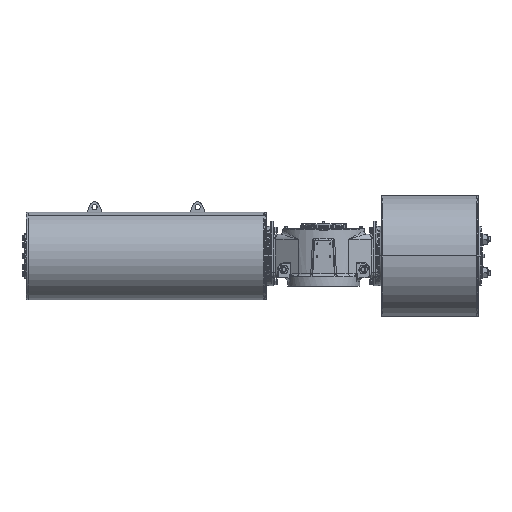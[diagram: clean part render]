
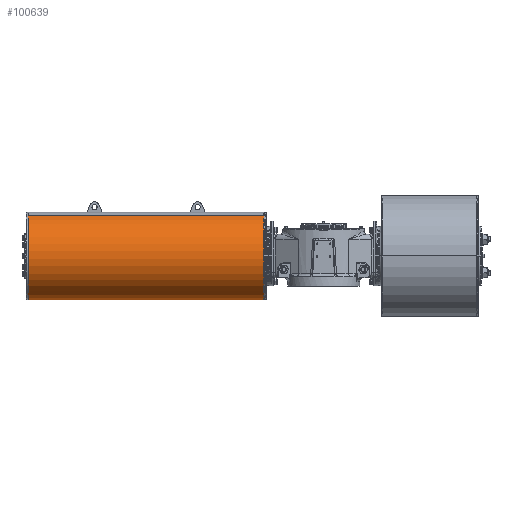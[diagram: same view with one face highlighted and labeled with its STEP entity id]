
A CAD part, front view. The second image highlights one B-rep face of the part: STEP entity #100639.
In plain terms, the highlighted cylindrical face has radius 340 mm (diameter 680 mm), a partial arc.
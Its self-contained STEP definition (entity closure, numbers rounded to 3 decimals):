
#12400 = DIRECTION ( 'NONE',  ( 1., 0., 0. ) ) ;
#12537 = CARTESIAN_POINT ( 'NONE',  ( -2293.385, 66.339, 479.326 ) ) ;
#16070 = CARTESIAN_POINT ( 'NONE',  ( -462.615, 339.661, -143.326 ) ) ;
#20241 = VECTOR ( 'NONE', #26007, 1000. ) ;
#20894 = VERTEX_POINT ( 'NONE', #92889 ) ;
#26007 = DIRECTION ( 'NONE',  ( 1., 0., 0. ) ) ;
#26647 = CARTESIAN_POINT ( 'NONE',  ( -462.615, 203., 168. ) ) ;
#30154 = DIRECTION ( 'NONE',  ( 1., 0., 0. ) ) ;
#33751 = ORIENTED_EDGE ( 'NONE', *, *, #91992, .T. ) ;
#34446 = AXIS2_PLACEMENT_3D ( 'NONE', #66784, #96291, #77077 ) ;
#36307 = LINE ( 'NONE', #105616, #20241 ) ;
#39816 = VERTEX_POINT ( 'NONE', #53948 ) ;
#48158 = EDGE_CURVE ( 'NONE', #81846, #20894, #126819, .T. ) ;
#48283 = VECTOR ( 'NONE', #12400, 1000. ) ;
#48898 = EDGE_CURVE ( 'NONE', #20894, #50636, #36307, .T. ) ;
#50636 = VERTEX_POINT ( 'NONE', #16070 ) ;
#50979 = AXIS2_PLACEMENT_3D ( 'NONE', #118113, #30154, #99496 ) ;
#52326 = AXIS2_PLACEMENT_3D ( 'NONE', #26647, #57518, #86411 ) ;
#53525 = LINE ( 'NONE', #71557, #48283 ) ;
#53948 = CARTESIAN_POINT ( 'NONE',  ( -462.615, 66.339, 479.326 ) ) ;
#57518 = DIRECTION ( 'NONE',  ( -1., 0., 0. ) ) ;
#58375 = EDGE_LOOP ( 'NONE', ( #92290, #104663, #74733, #33751 ) ) ;
#62616 = CIRCLE ( 'NONE', #52326, 340. ) ;
#66784 = CARTESIAN_POINT ( 'NONE',  ( -2298., 203., 168. ) ) ;
#71557 = CARTESIAN_POINT ( 'NONE',  ( -2298., 66.339, 479.326 ) ) ;
#72660 = EDGE_CURVE ( 'NONE', #81846, #39816, #53525, .T. ) ;
#74733 = ORIENTED_EDGE ( 'NONE', *, *, #48898, .T. ) ;
#77077 = DIRECTION ( 'NONE',  ( 0., 0.402, -0.916 ) ) ;
#81846 = VERTEX_POINT ( 'NONE', #12537 ) ;
#86411 = DIRECTION ( 'NONE',  ( 0., -0.402, 0.916 ) ) ;
#91992 = EDGE_CURVE ( 'NONE', #50636, #39816, #62616, .T. ) ;
#92290 = ORIENTED_EDGE ( 'NONE', *, *, #72660, .F. ) ;
#92889 = CARTESIAN_POINT ( 'NONE',  ( -2293.385, 339.661, -143.326 ) ) ;
#96291 = DIRECTION ( 'NONE',  ( 1., 0., 0. ) ) ;
#99496 = DIRECTION ( 'NONE',  ( 0., -0.402, 0.916 ) ) ;
#100639 = ADVANCED_FACE ( 'NONE', ( #125146 ), #115536, .T. ) ;
#104663 = ORIENTED_EDGE ( 'NONE', *, *, #48158, .T. ) ;
#105616 = CARTESIAN_POINT ( 'NONE',  ( -2298., 339.661, -143.326 ) ) ;
#115536 = CYLINDRICAL_SURFACE ( 'NONE', #34446, 340. ) ;
#118113 = CARTESIAN_POINT ( 'NONE',  ( -2293.385, 203., 168. ) ) ;
#125146 = FACE_OUTER_BOUND ( 'NONE', #58375, .T. ) ;
#126819 = CIRCLE ( 'NONE', #50979, 340. ) ;
